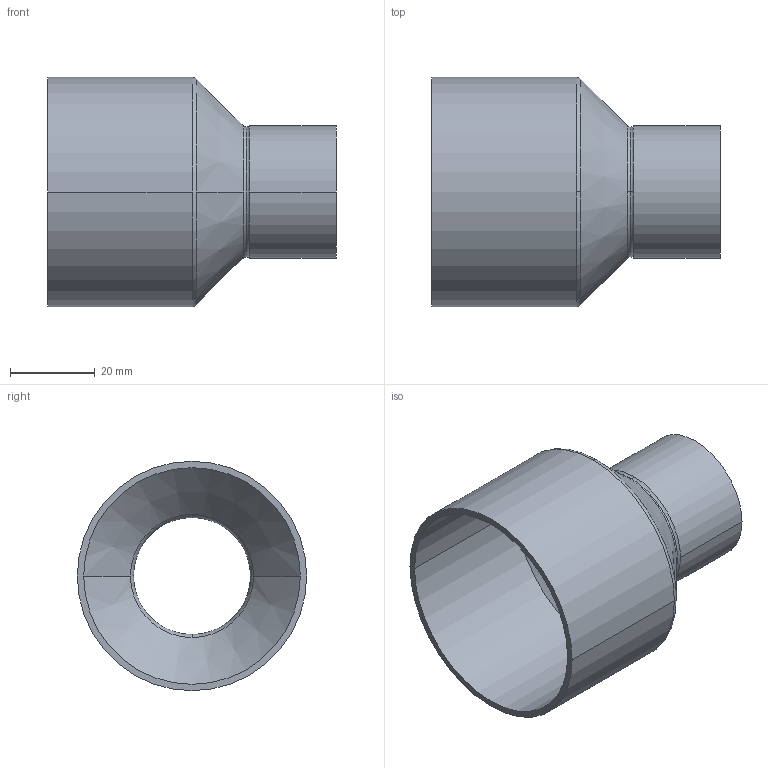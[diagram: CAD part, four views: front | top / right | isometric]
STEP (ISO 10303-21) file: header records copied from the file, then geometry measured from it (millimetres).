
FILE_DESCRIPTION((''),'2;1');
FILE_NAME('G:\Technics\CAD\Bauteile\Serie 15243\152435428.stp','2005-10-21T12:49:45',('boden'),(''),'Autodesk Inventor 8','Autodesk Inventor 8','');
FILE_SCHEMA(('AUTOMOTIVE_DESIGN { 1 0 10303 214 1 1 1 1 }'));
Length unit declared in the file: millimetre
Products named in the file (1): 152435428
Bounding box: 68 x 54 x 54 mm (x, y, z)
Volume: 14733.3 mm3; surface area: 20032.3 mm2
Topology: 1 solids, 1 shells, 24 faces, 60 edges, 38 vertices
Faces by surface type: cylinder 8, torus 6, bspline 4, cone 4, plane 2
Entity records: 931 total; most frequent: CARTESIAN_POINT 299, DIRECTION 150, ORIENTED_EDGE 120, AXIS2_PLACEMENT_3D 69, EDGE_CURVE 60, CIRCLE 48, VERTEX_POINT 38, EDGE_LOOP 26
